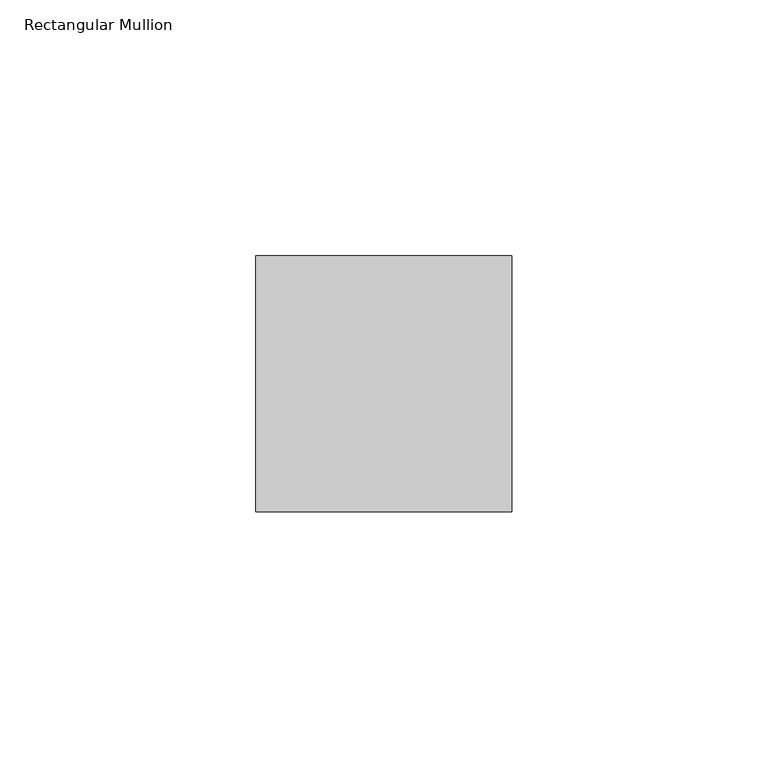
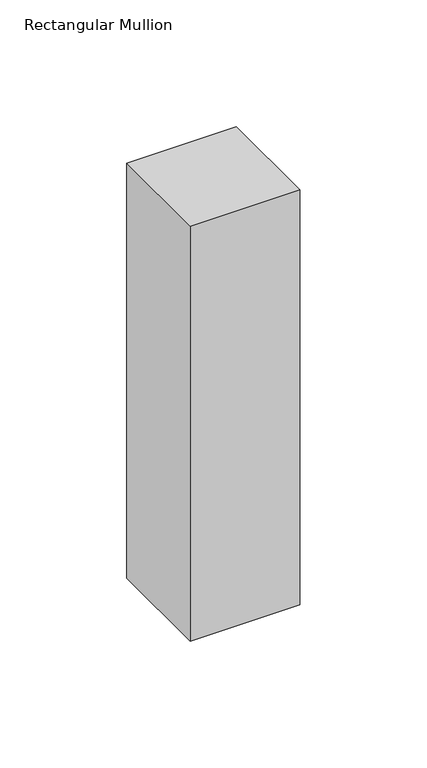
"""IFC4 building model written with IfcOpenShell, lengths in millimetres: member geometry, Rectangular Mullion : RSen_21_CWM_support profile 50x50_gen_duco projects."""

import ifcopenshell
import ifcopenshell.guid

model = None  # the IFC model being written
_history = None  # IfcOwnerHistory: only IFC2X3 demands one
_inside = {}  # id of a spatial element -> (the spatial element, [elements in it])
_under = {}  # id of a project, library or spatial element -> (it, [spatial elements below it])
_declared = {}  # id of a project -> (the project, [libraries it declares])
_typed = {}  # id of a type object -> (the type object, [elements of that type])
_made_of = {}  # id of a material, layer set ... -> (it, [elements and type objects made of it])


def new_model(schema):
    """Start an empty IFC model of exactly this schema.

    Asked for "IFC4X3", IfcOpenShell would pick the latest addendum, in which some entities
    have other attributes; the version numbers below select the first issue.
    IFC2X3 requires an IfcOwnerHistory on every rooted entity: one is made here for all.
    """
    global model, _history
    if schema == "IFC4X3":
        model = ifcopenshell.file(schema_version=(4, 3, 0, 0))
    else:
        model = ifcopenshell.file(schema=schema)
    _inside.clear()
    _under.clear()
    _declared.clear()
    _typed.clear()
    _made_of.clear()
    _history = None
    if model.schema == "IFC2X3":
        org = make("IfcOrganization", Name="unknown")
        user = make(
            "IfcPersonAndOrganization",
            ThePerson=make("IfcPerson", FamilyName="unknown"),
            TheOrganization=org,
        )
        app = make(
            "IfcApplication",
            ApplicationDeveloper=org,
            Version="unknown",
            ApplicationFullName="unknown",
            ApplicationIdentifier="unknown",
        )
        _history = make(
            "IfcOwnerHistory",
            OwningUser=user,
            OwningApplication=app,
            ChangeAction="ADDED",
            CreationDate=0,
        )
    return model


def make(cls, **values):
    """One entity of the class cls with the attributes given. An attribute that is None is left unset."""
    return model.create_entity(
        cls, **{name: value for name, value in values.items() if value is not None}
    )


def rooted(cls, **values):
    """An entity with a GlobalId (a new one), such as an element, a storey or a relation."""
    return make(cls, GlobalId=ifcopenshell.guid.new(), OwnerHistory=_history, **values)


def si_unit(unit_type, name, prefix=None):
    """IfcSIUnit, for example si_unit("LENGTHUNIT", "METRE", prefix="MILLI")."""
    return make("IfcSIUnit", UnitType=unit_type, Prefix=prefix, Name=name)


def assignment(units):
    """IfcUnitAssignment: the units of a project."""
    return None if units is None else make("IfcUnitAssignment", Units=units)


def point(xyz):
    """IfcCartesianPoint."""
    return None if xyz is None else make("IfcCartesianPoint", Coordinates=xyz)


def direction(xyz):
    """IfcDirection."""
    return None if xyz is None else make("IfcDirection", DirectionRatios=xyz)


def frame(location, z_axis=None, x_axis=None):
    """IfcAxis2Placement3D, a coordinate frame: its origin and axes. An axis left out is left unset."""
    return make(
        "IfcAxis2Placement3D",
        Location=point(location),
        Axis=direction(z_axis),
        RefDirection=direction(x_axis),
    )


def origin():
    """The frame at (0, 0, 0) with its axes left unset."""
    return frame((0.0, 0.0, 0.0))


def place(relative_to, where):
    """IfcLocalPlacement: puts the frame where relative to a parent placement (None: the world)."""
    return make(
        "IfcLocalPlacement", PlacementRelTo=relative_to, RelativePlacement=where
    )


def context(
    kind, dimensions, precision=None, world=None, true_north=None, identifier=None
):
    """IfcGeometricRepresentationContext, for example the 3D "Model" context."""
    return make(
        "IfcGeometricRepresentationContext",
        ContextIdentifier=identifier,
        ContextType=kind,
        CoordinateSpaceDimension=dimensions,
        Precision=precision,
        WorldCoordinateSystem=world,
        TrueNorth=true_north,
    )


def project(units=None, contexts=None):
    """IfcProject with its units and contexts."""
    return rooted(
        "IfcProject",
        Name="project",
        RepresentationContexts=contexts,
        UnitsInContext=assignment(units),
    )


def spatial(cls, under=None, at=None, **own):
    """A site, building, storey or space (cls), placed at a placement, below another one or the project."""
    s = rooted(cls, ObjectPlacement=at, **own)
    if under is not None:
        _under.setdefault(under.id(), (under, []))[1].append(s)
    return s


def polyline(points):
    """IfcPolyline through the points."""
    return make("IfcPolyline", Points=[point(p) for p in points])


def outline(outer, holes=None, kind="AREA"):
    """IfcArbitraryClosedProfileDef: a profile drawn as a closed curve; with holes, ...WithVoids."""
    if holes is None:
        return make("IfcArbitraryClosedProfileDef", ProfileType=kind, OuterCurve=outer)
    return make(
        "IfcArbitraryProfileDefWithVoids",
        ProfileType=kind,
        OuterCurve=outer,
        InnerCurves=holes,
    )


def extrude(swept, where, along, depth):
    """IfcExtrudedAreaSolid: the profile swept, set in the frame where, extruded along a direction by depth."""
    return make(
        "IfcExtrudedAreaSolid",
        SweptArea=swept,
        Position=where,
        ExtrudedDirection=direction(along),
        Depth=depth,
    )


def shape(context_of_items, identifier, shape_type, items):
    """IfcShapeRepresentation: the items that make up one representation, for example the "Body"."""
    return make(
        "IfcShapeRepresentation",
        ContextOfItems=context_of_items,
        RepresentationIdentifier=identifier,
        RepresentationType=shape_type,
        Items=items,
    )


def source(mapping_origin, context_of_items, identifier, shape_type, items):
    """IfcRepresentationMap: a shape defined once, which mapped items show again and again."""
    return make(
        "IfcRepresentationMap",
        MappingOrigin=mapping_origin,
        MappedRepresentation=shape(context_of_items, identifier, shape_type, items),
    )


def transform(
    local_origin,
    x_axis=None,
    y_axis=None,
    z_axis=None,
    scale=None,
    scale2=None,
    scale3=None,
    uniform=True,
):
    """IfcCartesianTransformationOperator3D, or its non-uniform kind. x_axis, y_axis, z_axis: its Axis1, 2, 3."""
    if uniform:
        return make(
            "IfcCartesianTransformationOperator3D",
            Axis1=direction(x_axis),
            Axis2=direction(y_axis),
            LocalOrigin=point(local_origin),
            Scale=scale,
            Axis3=direction(z_axis),
        )
    return make(
        "IfcCartesianTransformationOperator3DnonUniform",
        Axis1=direction(x_axis),
        Axis2=direction(y_axis),
        LocalOrigin=point(local_origin),
        Scale=scale,
        Axis3=direction(z_axis),
        Scale2=scale2,
        Scale3=scale3,
    )


def mapped(mapping_source, mapping_target):
    """IfcMappedItem: shows the shape of a source again, moved by a transform."""
    return make(
        "IfcMappedItem", MappingSource=mapping_source, MappingTarget=mapping_target
    )


def made_of(thing, what):
    """Note that an element or type object is made of a material, layer set ...; save() writes the relation."""
    if what is not None:
        _made_of.setdefault(what.id(), (what, []))[1].append(thing)
    return thing


def element(
    cls,
    number,
    at=None,
    inside=None,
    cuts=None,
    type_object=None,
    material=None,
    context=None,
    identifier="Body",
    shape_type=None,
    held_by="IfcProductDefinitionShape",
    body=None,
    shapes=None,
    **own,
):
    """One element of the class cls, such as IfcWall. Its Tag is "e" and its number.

    at: its placement. inside: the storey or other place that contains it. cuts: it is an
    opening in that element (IfcRelVoidsElement). A single representation is given by context,
    identifier, shape_type and body (its items); several are given by shapes. held_by: the class
    of the entity that holds the representations. save() writes the other relations.
    """
    e = rooted(cls, Tag="e%d" % number, ObjectPlacement=at, **own)
    if body is not None:
        shapes = [shape(context, identifier, shape_type, body)]
    if shapes is not None:
        e.Representation = make(held_by, Representations=shapes)
    if inside is not None:
        _inside.setdefault(inside.id(), (inside, []))[1].append(e)
    if cuts is not None:
        rooted(
            "IfcRelVoidsElement", RelatingBuildingElement=cuts, RelatedOpeningElement=e
        )
    if type_object is not None:
        _typed.setdefault(type_object.id(), (type_object, []))[1].append(e)
    return made_of(e, material)


def aggregate(whole, parts):
    """IfcRelAggregates: a whole, such as a stair, and the parts it consists of."""
    return rooted("IfcRelAggregates", RelatingObject=whole, RelatedObjects=parts)


def save(model, path):
    """Write the relations noted so far, then the file.

    IfcRelAggregates (storeys below a building ...), IfcRelContainedInSpatialStructure (elements
    in a storey), IfcRelDefinesByType, IfcRelAssociatesMaterial and IfcRelDeclares: one each for
    every whole, place, type object, material and project.
    """
    for whole, parts in _under.values():
        aggregate(whole, parts)
    for where, things in _inside.values():
        rooted(
            "IfcRelContainedInSpatialStructure",
            RelatedElements=things,
            RelatingStructure=where,
        )
    for kind, things in _typed.values():
        rooted("IfcRelDefinesByType", RelatedObjects=things, RelatingType=kind)
    for what, things in _made_of.values():
        rooted("IfcRelAssociatesMaterial", RelatedObjects=things, RelatingMaterial=what)
    for by, libraries in _declared.values():
        rooted("IfcRelDeclares", RelatingContext=by, RelatedDefinitions=libraries)
    model.write(path)


def rectangular_mullion_7d91d70c(model_context):
    return source(origin(), model_context, "Body", "SweptSolid", [
        extrude(outline(polyline([(25.0, 1.0), (25.0, -49.0), (-25.0, -49.0), (-25.0, 1.0), (25.0, 1.0)])), frame((0.0, 0.0, -200.0), z_axis=(0.0, 0.0, 1.0), x_axis=(1.0, 0.0, 0.0)), (0.0, 0.0, 1.0), 200.0),
    ])


if __name__ == "__main__":
    model = new_model("IFC4")
    model_context = context("Model", 3, world=origin())
    ifc_project = project(units=[si_unit("LENGTHUNIT", "METRE", prefix="MILLI")], contexts=[model_context])
    site = spatial("IfcSite", under=ifc_project)
    building = spatial("IfcBuilding", under=site)
    placement = place(None, origin())
    rectangular_mullion_shape = rectangular_mullion_7d91d70c(model_context)
    element("IfcMember", 1, ObjectType="Rectangular Mullion : RSen_21_CWM_support profile 50x50_gen_duco projects", at=placement, inside=building, context=model_context, shape_type="MappedRepresentation", body=[
        mapped(rectangular_mullion_shape, transform((0.0, 0.0, 0.0), x_axis=(1.0, 0.0, 0.0), y_axis=(0.0, 1.0, 0.0), z_axis=(0.0, 0.0, 1.0))),
    ])
    save(model, "model.ifc")
